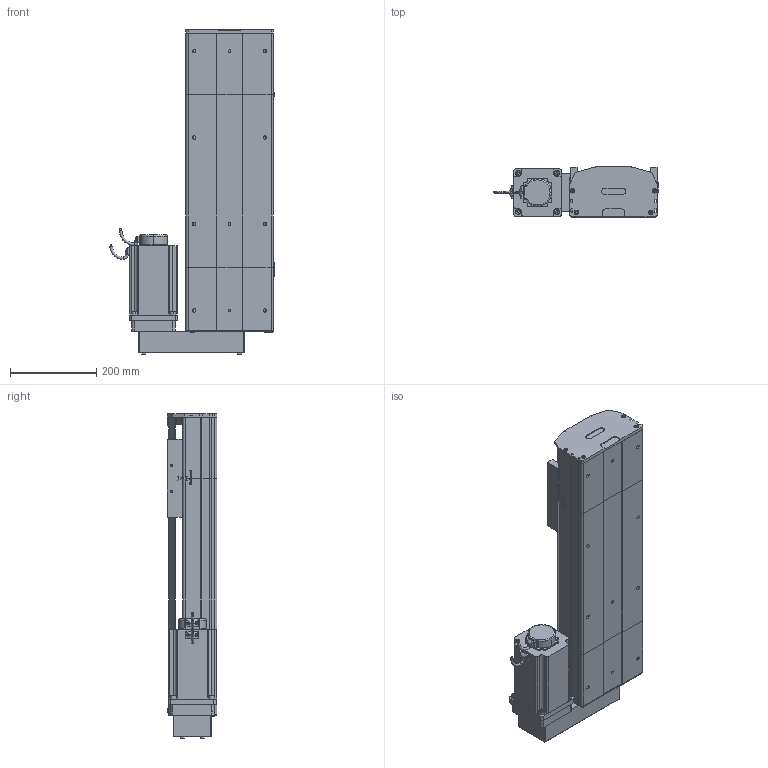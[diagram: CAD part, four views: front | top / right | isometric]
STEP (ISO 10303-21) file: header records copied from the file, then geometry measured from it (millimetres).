
FILE_DESCRIPTION (( 'STEP AP214' ), '1' );
FILE_NAME ('D20 TSH BL S400.STEP', '2010-06-30T08:30:20', ( 'Conseil Régional Haute-Normandie' ), ( 'Conseil Régional Haute-Normandie' ), 'SwSTEP 2.0', 'SolidWorks 2010', '' );
FILE_SCHEMA (( 'AUTOMOTIVE_DESIGN' ));
Length unit declared in the file: millimetre
Products named in the file (35): Moteur motionking 110BLDC170A-640x; Arbre+rail head D20; vis M8 L12_Default; clavette; rail + arbre  D20 S400; Conecteur2_Default; renvoi  BR_Default; couvercle head l D20_Default; Plaque racord D20_Default; corps 110BLDC170A-630x; avant 110BLDC170A-630x; plaque de  bout head BR D20_Default; codeur 110BLDC170A-630x; corpl head MD D20_Default; head BL D20_Default; Conecteur_Default; couvercle D20 S400_Default; corp D20 S400_Default; course D20 L400_Default; D20 TSH BL S400; couvercle tail D20_Default; vis M5 L70_Default; tete d''axe bas D20; corpl tail D20_Default; vis M5 L12_Default; guide D20; Chariot D20; chariot D20S_Default; vis M5 L25_Default; vis M5 L8 90°_Default; 2 vis M5 L12_Default; tail D20 S_Default; Arbre+rail tail D20; tete d''axe haut D20; plaque de  bout tail D20_Default
Assembly tree (59 placements, depth 4):
  D20 TSH BL S400
    course D20 L400_Default
      corp D20 S400_Default
      rail + arbre  D20 S400
      couvercle D20 S400_Default
    chariot D20S_Default
      vis M5 L12_Default  x4
      guide D20  x2
      Chariot D20
    tail D20 S_Default
      2 vis M5 L12_Default  x4
      plaque de  bout tail D20_Default
      tete d''axe bas D20
      vis M5 L8 90°_Default  x2
      vis M5 L25_Default  x2
      corpl tail D20_Default
      tete d''axe haut D20
      couvercle tail D20_Default
      Arbre+rail tail D20
    head BL D20_Default
      2 vis M5 L12_Default  x6
      vis M5 L70_Default  x4
      renvoi  BR_Default
      vis M8 L12_Default  x4
      vis M5 L12_Default  x2
      vis M5 L25_Default  x2
      plaque de  bout head BR D20_Default
      corpl head MD D20_Default
      Arbre+rail head D20
      couvercle head l D20_Default
      Moteur motionking 110BLDC170A-640x
        clavette
        Conecteur_Default
        codeur 110BLDC170A-630x
        Conecteur2_Default
        corps 110BLDC170A-630x
        avant 110BLDC170A-630x
      Plaque racord D20_Default
Bounding box: 380 x 115.7 x 751.7 mm (x, y, z)
Volume: 9020243.5 mm3; surface area: 1770474 mm2
Topology: 84 solids, 84 shells, 2292 faces, 5702 edges, 3679 vertices
Faces by surface type: plane 1376, cylinder 628, bspline 136, torus 77, cone 71, sphere 4
Entity records: 73503 total; most frequent: CARTESIAN_POINT 23843, ORIENTED_EDGE 8700, DIRECTION 8245, EDGE_CURVE 4350, LINE 2899, VECTOR 2899, VERTEX_POINT 2861, AXIS2_PLACEMENT_3D 2673
